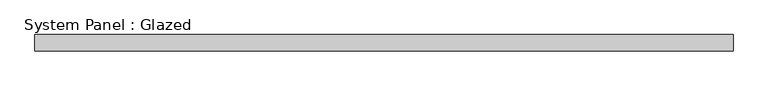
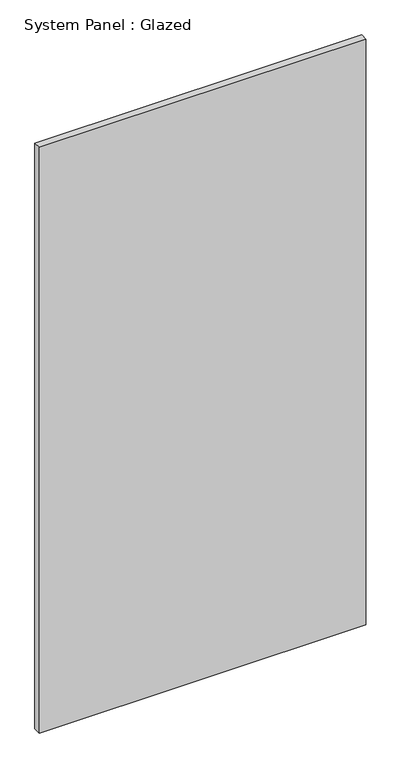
"""IFC4 building model written with IfcOpenShell, lengths in millimetres: plate geometry, System Panel : Glazed."""

from ifc_helpers import new_model, si_unit, origin, origin_with_axes, place, context, project, spatial, polyline, outline, extrude, source, transform, mapped, element, save


def system_panel_glazed_53e3ec8b(model_context):
    return source(origin(), model_context, "Body", "SweptSolid", [
        extrude(outline(polyline([(546.1, 19.05), (-546.1, 19.05), (-546.1, 44.45), (546.1, 44.45), (546.1, 19.05)])), origin_with_axes(), (0.0, 0.0, 1.0), 2070.1),
    ])


if __name__ == "__main__":
    model = new_model("IFC4")
    model_context = context("Model", 3, world=origin())
    ifc_project = project(units=[si_unit("LENGTHUNIT", "METRE", prefix="MILLI")], contexts=[model_context])
    site = spatial("IfcSite", under=ifc_project)
    building = spatial("IfcBuilding", under=site)
    placement = place(None, origin())
    system_panel_glazed_shape = system_panel_glazed_53e3ec8b(model_context)
    element("IfcPlate", 1, ObjectType="System Panel : Glazed", at=placement, inside=building, context=model_context, shape_type="MappedRepresentation", body=[
        mapped(system_panel_glazed_shape, transform((0.0, 0.0, 0.0), x_axis=(1.0, 0.0, 0.0), y_axis=(0.0, 1.0, 0.0), z_axis=(0.0, 0.0, 1.0))),
    ])
    save(model, "model.ifc")
